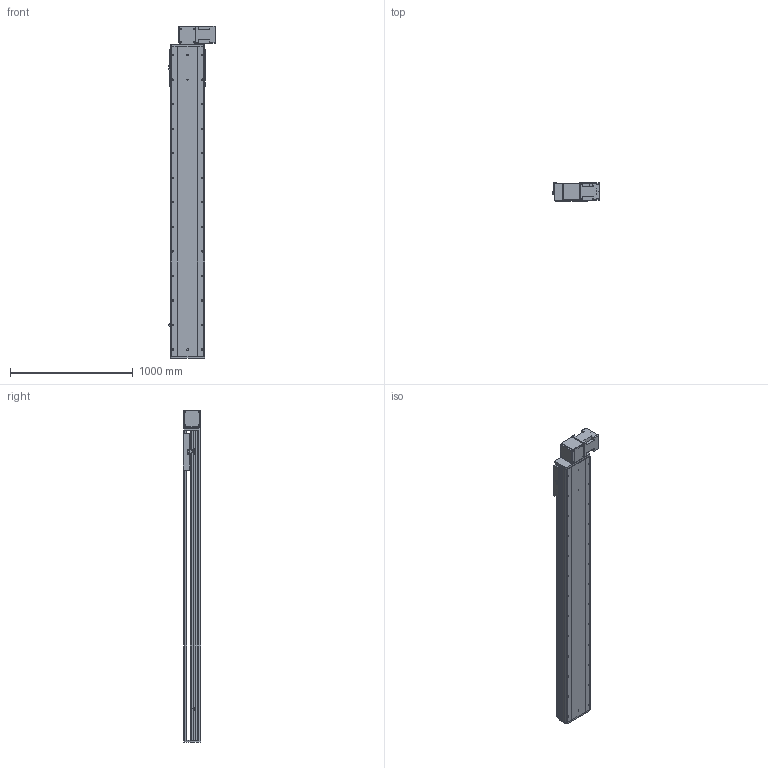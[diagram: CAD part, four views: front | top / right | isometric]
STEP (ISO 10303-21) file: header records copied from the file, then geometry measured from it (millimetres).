
FILE_DESCRIPTION (( 'STEP AP214' ), '1' );
FILE_NAME ('RTB28S-XX-2100-BL-M100-XX-C4.STEP', '2025-12-22T02:28:14', ( '' ), ( '' ), 'SwSTEP 2.0', 'SolidWorks 2018', '' );
FILE_SCHEMA (( 'AUTOMOTIVE_DESIGN' ));
Length unit declared in the file: millimetre
Products named in the file (4): RTB28S-XX-2100-BL-M100-XX-C4; RTB28S-GY-008^RTB28S-XX-XX-BL-M100-XX-C4; RTB28S-GY-011^RTB28S-XX-XX-BL-M100-XX-C4; RTB28S-GY-004^RTB28S-XX-XX-BL-M100-XX-C4
Assembly tree (3 placements, depth 2):
  RTB28S-XX-2100-BL-M100-XX-C4
    RTB28S-GY-011^RTB28S-XX-XX-BL-M100-XX-C4
    RTB28S-GY-004^RTB28S-XX-XX-BL-M100-XX-C4
    RTB28S-GY-008^RTB28S-XX-XX-BL-M100-XX-C4
Bounding box: 380.7 x 145 x 2707 mm (x, y, z)
Volume: 46942926.1 mm3; surface area: 4423275.6 mm2
Topology: 3 solids, 4 shells, 838 faces, 2238 edges, 1428 vertices
Faces by surface type: cylinder 399, plane 355, cone 80, torus 4
Entity records: 31943 total; most frequent: CARTESIAN_POINT 5752, DIRECTION 4752, ORIENTED_EDGE 4412, EDGE_CURVE 2206, AXIS2_PLACEMENT_3D 1736, VERTEX_POINT 1428, LINE 1280, VECTOR 1280
